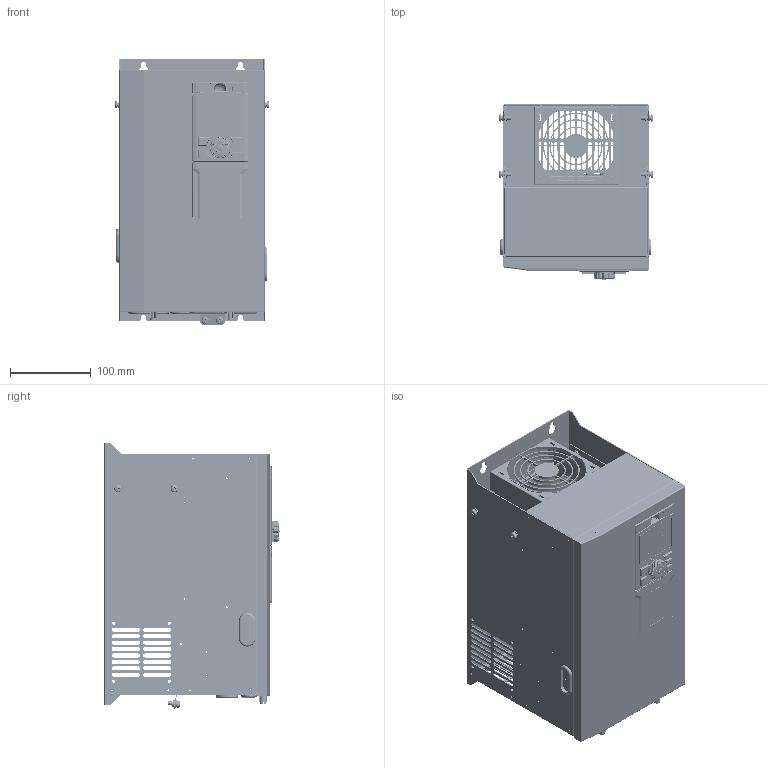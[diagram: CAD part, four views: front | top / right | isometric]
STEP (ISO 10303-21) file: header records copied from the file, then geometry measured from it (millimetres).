
FILE_DESCRIPTION((''),'2;1');
FILE_NAME('00-A8-22_ASM_148_ASM','2024-08-14T',('Administrator'),(''),'PRO/ENGINEER BY PARAMETRIC TECHNOLOGY CORPORATION, 2010280','PRO/ENGINEER BY PARAMETRIC TECHNOLOGY CORPORATION, 2010280','');
FILE_SCHEMA(('AUTOMOTIVE_DESIGN { 1 0 10303 214 1 1 1 1 }'));
Products named in the file (82): A8-22-01-01-01_91; TPS-3-6-ZC_9; S-M4-ZC_22; A8-22-01-01-01_ASM_77_ASM; A8-22-01-01-02_80; A8-22-01-01-02_ASM_71_ASM; A8-22-01-01-03_82; BSO-M3-8-ZC_23; S-M5-ZC_22; BSO-3R5M3-12-ZC_23; BSO-3R5M3-22-ZC_23; A8-22-01-01-03_ASM_77_ASM; A8-22-01-01-04_13; A8-22-01-01-04_ASM_16_ASM; A8-22-01-01-05_46; A8-22-01-01-05_ASM_24_ASM; A8-22-01-01-06_22; A8-22-01-01-06_ASM_24_ASM; GB12617-90_4X8_30-R0_10_21; A8-22-01-01_ASM_98_ASM; A8-22-01-02_47; A8-22-01-02_ASM_47_ASM; A8-22-01-03_60; TPS-4-8-ZC_9; A8-22-01-03_ASM_61_ASM; A8-22-01-04_87; S-M3-ZC_22; A8-22-01-04_ASM_76_ASM; A8-22-01-05_20; A8-22-01-05_ASM_22_ASM; A8-37-01-05_ASM_11_ASM; A8-22-01_ASM_100_ASM; BHR26-6-16-02-C_30; A8Q-22-01Y-20220410_ASM_53_ASM; BHY8-3-14D5_30; A8-22-DZB_ASM_38_ASM; A8-22-PCB_ASM_57_ASM; A8-01-07_73; A8-01-08_34; A8-DZ_ASM_42_ASM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
Assembly tree (167 placements, depth 6):
  00-A8-22_ASM_148_ASM
    A8-22-01_ASM_100_ASM
      A8-22-01-01_ASM_98_ASM
        A8-22-01-01-01_ASM_77_ASM
          A8-22-01-01-01_91
          TPS-3-6-ZC_9  x2
          S-M4-ZC_22  x8
        A8-22-01-01-02_ASM_71_ASM
          A8-22-01-01-02_80
          S-M4-ZC_22  x6
        A8-22-01-01-03_ASM_77_ASM
          A8-22-01-01-03_82
          BSO-M3-8-ZC_23  x2
          S-M5-ZC_22  x2
          BSO-3R5M3-12-ZC_23  x4
          BSO-3R5M3-22-ZC_23  x2
        A8-22-01-01-04_ASM_16_ASM  x2
          A8-22-01-01-04_13
          S-M4-ZC_22
        A8-22-01-01-05_ASM_24_ASM
          A8-22-01-01-05_46
          S-M4-ZC_22  x2
        A8-22-01-01-06_ASM_24_ASM
          A8-22-01-01-06_22
          S-M4-ZC_22  x2
        GB12617-90_4X8_30-R0_10_21  x29
      A8-22-01-02_ASM_47_ASM
        A8-22-01-02_47
        S-M4-ZC_22  x4
      A8-22-01-03_ASM_61_ASM
        A8-22-01-03_60
        TPS-4-8-ZC_9  x2
      A8-22-01-04_ASM_76_ASM
        A8-22-01-04_87
        S-M3-ZC_22  x8
      A8-22-01-05_ASM_22_ASM
        A8-22-01-05_20
      A8-37-01-05_ASM_11_ASM
        S-M3-ZC_22  x4
    A8-22-PCB_ASM_57_ASM
      A8Q-22-01Y-20220410_ASM_53_ASM
        BHR26-6-16-02-C_30
      A8-22-DZB_ASM_38_ASM
        BHY8-3-14D5_30
    A8-DZ_ASM_42_ASM
      A8-01-07_73
      A8-01-08_34
    A8-18-01-02-04_24
    HXQ-50X28_13  x3
    HXQ-20X42_13  x4
    GB9074-8-1988-M5X12_7_ASM  x6
      MANIFOLD_SOLID_BREP_235149
      MANIFOLD_SOLID_BREP_235368
      MANIFOLD_SOLID_BREP_235601
    M4X8_9  x2
    A9-DZ_ASM_3_ASM
      A8-01-07_73
      A9-01-12_2
    00-A9-KZ_ASM_11_ASM
      A9-01_ASM_10_ASM
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Bounding box: 191.83 x 217.2 x 329.73 mm (x, y, z)
Volume: 899608.7 mm3; surface area: 1259475.6 mm2
Topology: 149 solids, 149 shells, 22789 faces, 64950 edges, 44306 vertices
Faces by surface type: plane 19390, cylinder 2299, cone 739, torus 168, bspline 129, sphere 64
Entity records: 490502 total; most frequent: CARTESIAN_POINT 82456, ORIENTED_EDGE 66648, DIRECTION 63004, EDGE_CURVE 33324, VECTOR 28942, LINE 28942, VERTEX_POINT 22020, PRESENTATION_STYLE_ASSIGNMENT 17776
